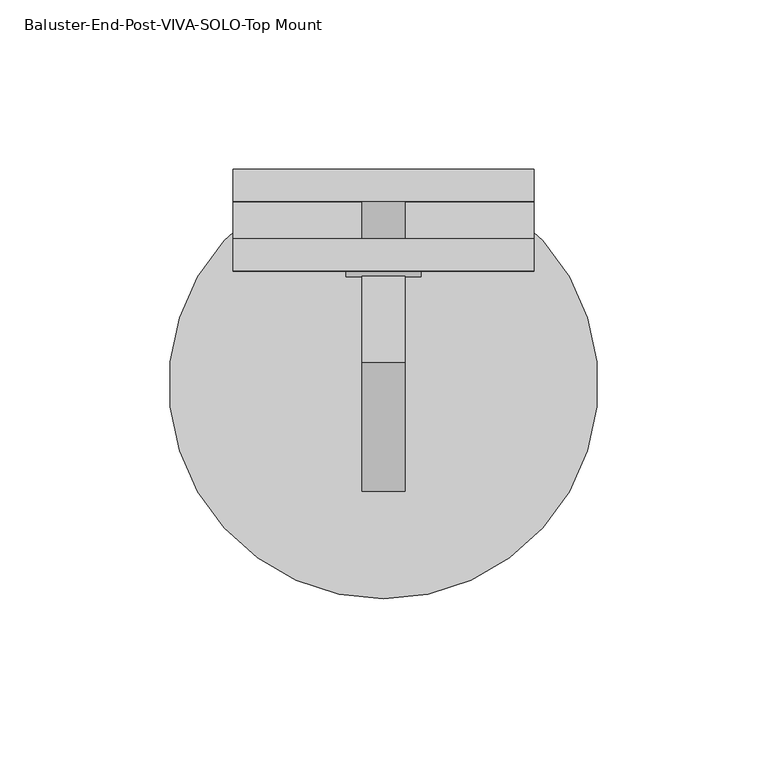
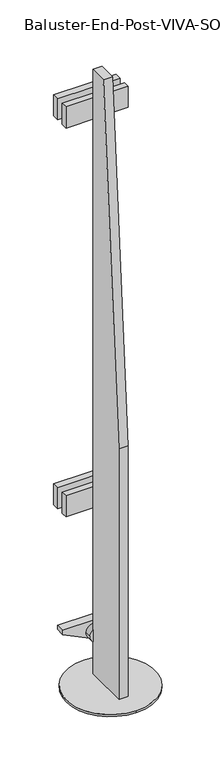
"""IFC4 building model written with IfcOpenShell, lengths in millimetres: proxy geometry, Baluster-End-Post-VIVA-SOLO-Top Mount : CORED INTO CONCRETE_TOP MOUNT FOLD_STRAIGHT."""

from ifc_helpers import new_model, si_unit, point, frame, frame_2d, origin, place, context, project, spatial, polyline, circle_curve, trimmed, segment, composite_curve, outline, extrude, source, transform, mapped, element, save


def baluster_end_post_viva_solo_top_mount_7846b30d(model_context):
    return source(origin(), model_context, "Body", "SweptSolid", [
        extrude(outline(composite_curve([segment(trimmed(circle_curve(frame_2d((268.5208758, 152.4)), 6.35), [point((268.5208758, 146.05))], [point((268.5208758, 158.75))], False, "CARTESIAN"), True, "CONTINUOUS"), segment(trimmed(circle_curve(frame_2d((268.5208758, 152.4)), 6.35), [point((268.5208758, 158.75))], [point((268.5208758, 146.05))], False, "CARTESIAN"), True, "CONTINUOUS")], self_intersect=False)), frame((0.0, -42.5925389, 0.0), z_axis=(0.0, 1.0, 0.0), x_axis=(0.0, 0.0, 1.0)), (0.0, 0.0, 1.0), 12.7),
        extrude(outline(composite_curve([segment(trimmed(circle_curve(frame_2d((854.776764, 152.4)), 6.35), [point((854.776764, 146.05))], [point((854.776764, 158.75))], False, "CARTESIAN"), True, "CONTINUOUS"), segment(trimmed(circle_curve(frame_2d((854.776764, 152.4)), 6.35), [point((854.776764, 158.75))], [point((854.776764, 146.05))], False, "CARTESIAN"), True, "CONTINUOUS")], self_intersect=False)), frame((0.0, -42.5925389, 0.0), z_axis=(0.0, 1.0, 0.0), x_axis=(0.0, 0.0, 1.0)), (0.0, 0.0, 1.0), 12.7),
        extrude(outline(composite_curve([segment(trimmed(circle_curve(frame_2d((60.8777263, 152.4)), 11.1125), [point((60.8777263, 141.2875))], [point((60.8777263, 163.5125))], False, "CARTESIAN"), True, "CONTINUOUS"), segment(trimmed(circle_curve(frame_2d((60.8777263, 152.4)), 11.1125), [point((60.8777263, 163.5125))], [point((60.8777263, 141.2875))], False, "CARTESIAN"), True, "CONTINUOUS")], self_intersect=False)), frame((0.0, -52.1175389, 0.0), z_axis=(0.0, 1.0, 0.0), x_axis=(0.0, 0.0, 1.0)), (0.0, 0.0, 1.0), 25.4),
        extrude(outline(polyline([(-52.1175389, 914.8205071), (-52.1175389, 0.4205071), (-115.6175389, 0.4205071), (-115.6175389, 381.4205071), (-77.5175389, 914.8205071), (-52.1175389, 914.8205071)])), frame((146.05, 0.0, 0.0), z_axis=(1.0, 0.0, 0.0), x_axis=(0.0, 1.0, 0.0)), (0.0, 0.0, 1.0), 12.7),
        extrude(outline(polyline([(196.85, -20.3675389), (196.85, -29.8925389), (107.95, -29.8925389), (107.95, -20.3675389), (196.85, -20.3675389)])), frame((0.0, 0.0, 838.7824344), z_axis=(0.0, 0.0, 1.0), x_axis=(1.0, 0.0, 0.0)), (0.0, 0.0, 1.0), 31.75),
        extrude(outline(polyline([(196.85, -20.3675389), (196.85, -29.8925389), (107.95, -29.8925389), (107.95, -20.3675389), (196.85, -20.3675389)])), frame((0.0, 0.0, 252.4484609), z_axis=(0.0, 0.0, 1.0), x_axis=(1.0, 0.0, 0.0)), (0.0, 0.0, 1.0), 31.75),
        extrude(outline(polyline([(70.3302675, 107.95), (48.4156188, 152.4), (70.3302675, 196.85), (76.6802675, 196.85), (76.6802675, 107.95), (70.3302675, 107.95)])), frame((0.0, -42.5925389, 0.0), z_axis=(0.0, 1.0, 0.0), x_axis=(0.0, 0.0, 1.0)), (0.0, 0.0, 1.0), 12.7),
        extrude(outline(polyline([(196.85, -40.984781), (196.85, -50.509781), (107.95, -50.509781), (107.95, -40.984781), (196.85, -40.984781)])), frame((0.0, 0.0, 838.7824344), z_axis=(0.0, 0.0, 1.0), x_axis=(1.0, 0.0, 0.0)), (0.0, 0.0, 1.0), 31.75),
        extrude(outline(polyline([(196.85, -40.984781), (196.85, -50.509781), (107.95, -50.509781), (107.95, -40.984781), (196.85, -40.984781)])), frame((0.0, 0.0, 252.4484609), z_axis=(0.0, 0.0, 1.0), x_axis=(1.0, 0.0, 0.0)), (0.0, 0.0, 1.0), 31.75),
        extrude(outline(composite_curve([segment(trimmed(circle_curve(frame_2d((152.4, -83.8675389)), 63.5), [point((152.4, -147.3675389))], [point((152.4, -20.3675389))], False, "CARTESIAN"), True, "CONTINUOUS"), segment(trimmed(circle_curve(frame_2d((152.4, -83.8675389)), 63.5), [point((152.4, -20.3675389))], [point((152.4, -147.3675389))], False, "CARTESIAN"), True, "CONTINUOUS")], self_intersect=False)), frame((0.0, 0.0, 0.4205071), z_axis=(0.0, 0.0, 1.0), x_axis=(1.0, 0.0, 0.0)), (0.0, 0.0, 1.0), 3.175),
    ])


if __name__ == "__main__":
    model = new_model("IFC4")
    model_context = context("Model", 3, world=origin())
    ifc_project = project(units=[si_unit("LENGTHUNIT", "METRE", prefix="MILLI")], contexts=[model_context])
    site = spatial("IfcSite", under=ifc_project)
    building = spatial("IfcBuilding", under=site)
    placement = place(None, origin())
    baluster_end_post_viva_solo_top_mount_shape = baluster_end_post_viva_solo_top_mount_7846b30d(model_context)
    element("IfcBuildingElementProxy", 1, Name="Baluster-End-Post-VIVA-SOLO-Top Mount : CORED INTO CONCRETE_TOP MOUNT FOLD_STRAIGHT", ObjectType="Baluster-End-Post-VIVA-SOLO-Top Mount : CORED INTO CONCRETE_TOP MOUNT FOLD_STRAIGHT", at=placement, inside=building, context=model_context, shape_type="MappedRepresentation", body=[
        mapped(baluster_end_post_viva_solo_top_mount_shape, transform((0.0, 0.0, 0.0), x_axis=(1.0, 0.0, 0.0), y_axis=(0.0, 1.0, 0.0), z_axis=(0.0, 0.0, 1.0))),
    ])
    save(model, "model.ifc")
